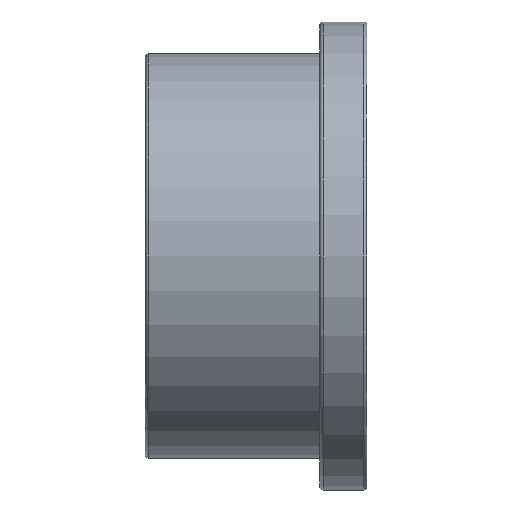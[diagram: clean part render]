
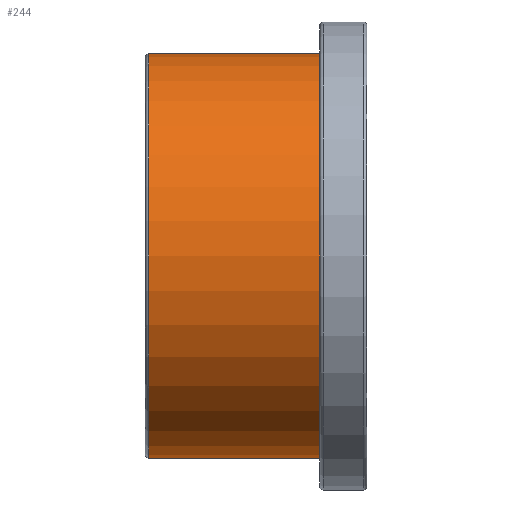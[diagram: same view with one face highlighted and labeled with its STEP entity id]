
A CAD part, front view. The second image highlights one B-rep face of the part: STEP entity #244.
In plain terms, the highlighted cylindrical face has radius 73 mm (diameter 146 mm), a full revolution.
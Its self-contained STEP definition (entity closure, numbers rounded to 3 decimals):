
#20=CYLINDRICAL_SURFACE('',#288,73.);
#46=FACE_BOUND('',#108,.T.);
#67=FACE_OUTER_BOUND('',#107,.T.);
#107=EDGE_LOOP('',(#212));
#108=EDGE_LOOP('',(#213));
#130=CIRCLE('',#285,73.);
#131=CIRCLE('',#287,73.);
#151=VERTEX_POINT('',#433);
#152=VERTEX_POINT('',#436);
#172=EDGE_CURVE('',#151,#151,#130,.T.);
#173=EDGE_CURVE('',#152,#152,#131,.T.);
#212=ORIENTED_EDGE('',*,*,#172,.T.);
#213=ORIENTED_EDGE('',*,*,#173,.F.);
#244=ADVANCED_FACE('',(#67,#46),#20,.T.);
#285=AXIS2_PLACEMENT_3D('',#434,#366,#367);
#287=AXIS2_PLACEMENT_3D('',#437,#370,#371);
#288=AXIS2_PLACEMENT_3D('',#438,#372,#373);
#366=DIRECTION('center_axis',(-1.,0.,0.));
#367=DIRECTION('ref_axis',(0.,0.,1.));
#370=DIRECTION('center_axis',(-1.,0.,0.));
#371=DIRECTION('ref_axis',(0.,1.,0.));
#372=DIRECTION('center_axis',(-1.,0.,0.));
#373=DIRECTION('ref_axis',(0.,-1.,0.));
#433=CARTESIAN_POINT('',(63.,-73.,0.));
#434=CARTESIAN_POINT('Origin',(63.,0.,0.));
#436=CARTESIAN_POINT('',(1.25,-73.,0.));
#437=CARTESIAN_POINT('Origin',(1.25,0.,0.));
#438=CARTESIAN_POINT('Origin',(31.5,0.,0.));
